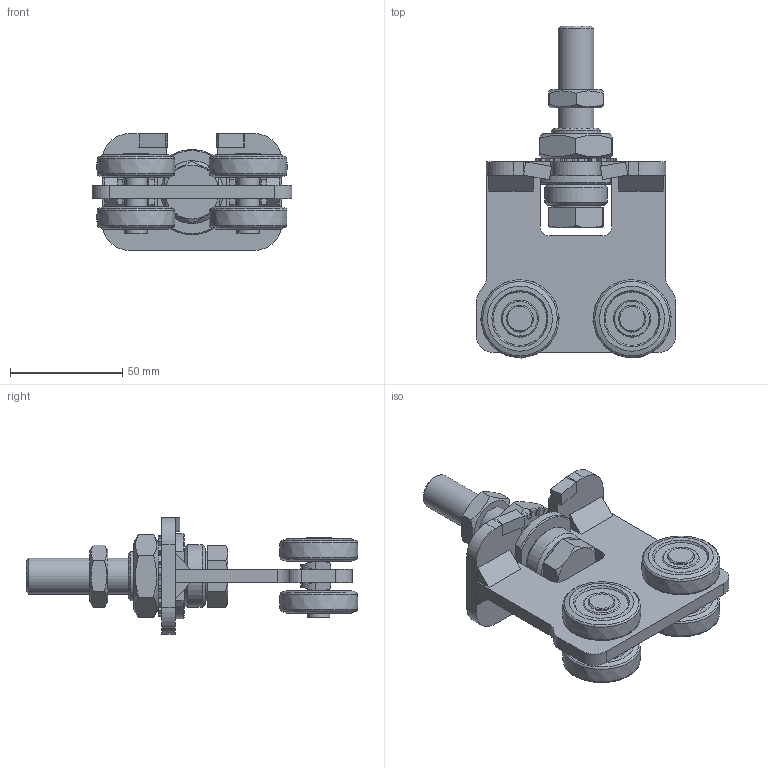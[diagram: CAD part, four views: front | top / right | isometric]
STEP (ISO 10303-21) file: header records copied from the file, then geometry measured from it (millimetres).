
FILE_DESCRIPTION(/* description */ ('Doppelrolle Horizontal Nr.2'),/* implementation_level */ '2;1');
FILE_NAME(/* name */ 'Q:\sge-ma\Produktmanagement-STB\STB\Workspace\TraceParts\Doppelrolle horizontrale drehbar\010336452.stp',/* time_stamp */ '2018-02-21T15:37:58+01:00',/* author */ ('avschreier'),/* organization */ (''),/* preprocessor_version */ 'ST-DEVELOPER v16.1',/* originating_system */ 'Autodesk Inventor 2016',/* authorisation */ '');
FILE_SCHEMA (('CONFIG_CONTROL_DESIGN'));
Length unit declared in the file: millimetre
Products named in the file (13): 010336452_Schweißnähte; 000302058; 000302057; 000303236; 336290020; 000304013; 000302004; 000302005; DIN_EN_ISO_4035-M16_en; DIN_EN_ISO_4017-M16x80_en; DIN_6798-A_23_en; DIN_EN_ISO_4035-M22_en; 010336452
Assembly tree (19 placements, depth 2):
  010336452
    010336452_Schweißnähte
    000302058
    000302057
    000303236  x4
    336290020  x4
    000304013  x2
    000302004
    000302005
    DIN_EN_ISO_4035-M16_en
    DIN_EN_ISO_4017-M16x80_en
    DIN_6798-A_23_en
    DIN_EN_ISO_4035-M22_en
Bounding box: 89 x 147.99 x 52 mm (x, y, z)
Volume: 132681.4 mm3; surface area: 59617.8 mm2
Topology: 22 solids, 22 shells, 528 faces, 1307 edges, 844 vertices
Faces by surface type: plane 286, cylinder 137, cone 59, bspline 36, torus 10
Full cylindrical faces by diameter (mm): 10 x6, 12 x2, 13.835 x1, 14.917 x1, 16 x1, 16.2 x1, 16.5 x1, 19.294 x1, 22 x2, 23 x1, 28 x1
Entity records: 11833 total; most frequent: CARTESIAN_POINT 3044, DIRECTION 1842, ORIENTED_EDGE 1702, EDGE_CURVE 851, AXIS2_PLACEMENT_3D 672, VERTEX_POINT 578, LINE 498, VECTOR 498
